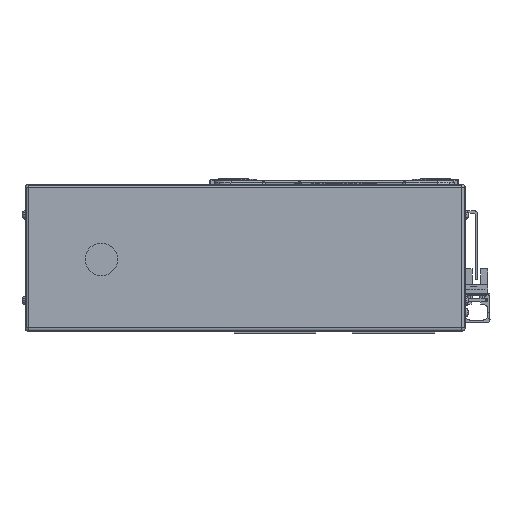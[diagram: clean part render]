
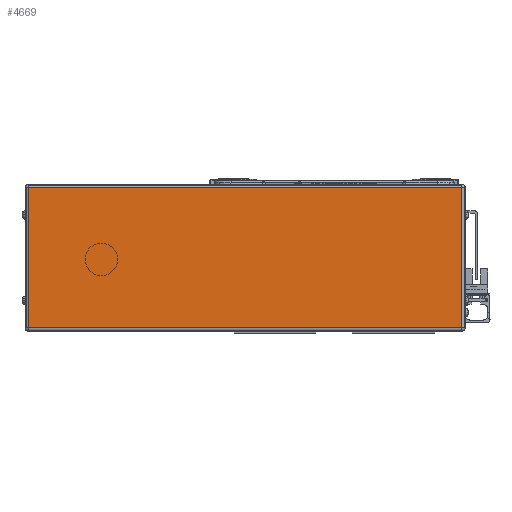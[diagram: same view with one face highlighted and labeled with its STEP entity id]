
A CAD part, left-side view. The second image highlights one B-rep face of the part: STEP entity #4669.
In plain terms, the highlighted planar face has unit normal (-1, 0, 0).
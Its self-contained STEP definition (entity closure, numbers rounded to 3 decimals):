
#4669=ADVANCED_FACE('',(#11397),#11398,.F.);
#11397=FACE_OUTER_BOUND('',#21144,.T.);
#11398=PLANE('',#21145);
#21144=EDGE_LOOP('',(#34799,#34800,#34801,#34802));
#21145=AXIS2_PLACEMENT_3D('',#34803,#34804,#34805);
#34799=ORIENTED_EDGE('',*,*,#58931,.T.);
#34800=ORIENTED_EDGE('',*,*,#58932,.T.);
#34801=ORIENTED_EDGE('',*,*,#58933,.T.);
#34802=ORIENTED_EDGE('',*,*,#58934,.T.);
#34803=CARTESIAN_POINT('',(-45.,180.5,0.));
#34804=DIRECTION('',(1.0,0.,0.));
#34805=DIRECTION('',(0.,0.,1.0));
#58931=EDGE_CURVE('',#71476,#71477,#71478,.T.);
#58932=EDGE_CURVE('',#71477,#71479,#71480,.T.);
#58933=EDGE_CURVE('',#71479,#71481,#71482,.T.);
#58934=EDGE_CURVE('',#71481,#71476,#71483,.T.);
#71476=VERTEX_POINT('',#88739);
#71477=VERTEX_POINT('',#88740);
#71478=LINE('',#88741,#88742);
#71479=VERTEX_POINT('',#88743);
#71480=LINE('',#88744,#88745);
#71481=VERTEX_POINT('',#88746);
#71482=LINE('',#88747,#88748);
#71483=LINE('',#88749,#88750);
#88739=CARTESIAN_POINT('',(-45.,178.5,41.));
#88740=CARTESIAN_POINT('',(-45.,178.5,-41.));
#88741=CARTESIAN_POINT('',(-45.,178.5,0.));
#88742=VECTOR('',#107440,10.0);
#88743=CARTESIAN_POINT('',(-45.,-74.5,-41.));
#88744=CARTESIAN_POINT('',(-45.,180.5,-41.));
#88745=VECTOR('',#107441,10.0);
#88746=CARTESIAN_POINT('',(-45.,-74.5,41.));
#88747=CARTESIAN_POINT('',(-45.,-74.5,0.));
#88748=VECTOR('',#107442,10.0);
#88749=CARTESIAN_POINT('',(-45.,180.5,41.));
#88750=VECTOR('',#107443,10.0);
#107440=DIRECTION('',(0.,0.,-1.0));
#107441=DIRECTION('',(0.,-1.0,0.));
#107442=DIRECTION('',(0.,0.,1.0));
#107443=DIRECTION('',(0.,1.0,0.));
